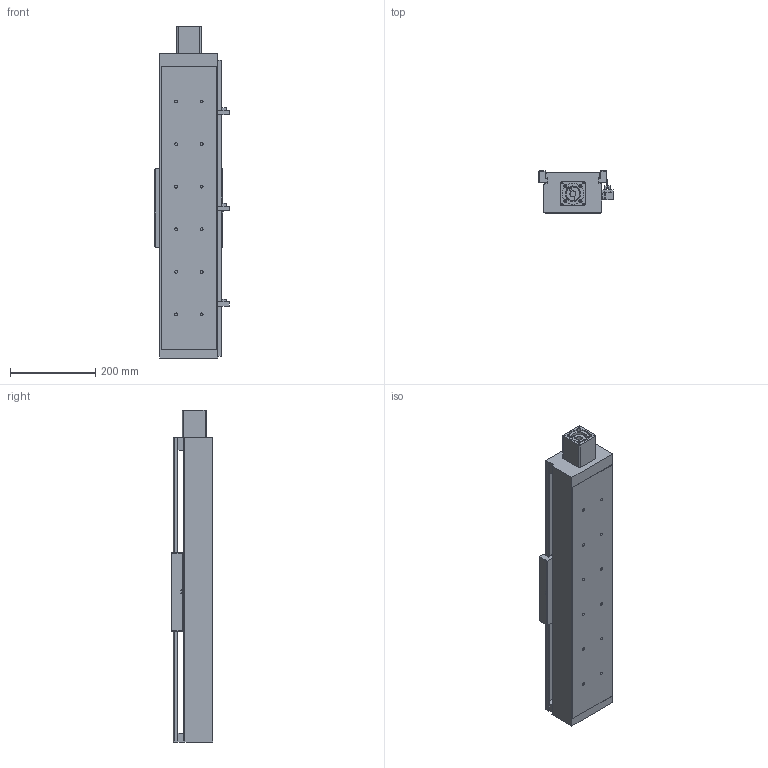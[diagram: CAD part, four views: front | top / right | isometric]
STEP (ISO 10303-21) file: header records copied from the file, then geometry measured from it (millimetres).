
FILE_DESCRIPTION((''),'2;1');
FILE_NAME('E:\libraries\UIA actuator library 2009\standard actuator\UIA136 ball screw 20\UIA136R15NDC stp file 27Apr16\UIA136R15NDC-450-R20_ _-M60-P13-C10-S.stp','2016-04-27T13:55:59',('h029'),(''),'Autodesk Inventor 11','Autodesk Inventor 11','');
FILE_SCHEMA(('AUTOMOTIVE_DESIGN { 1 0 10303 214 1 1 1 1 }'));
Length unit declared in the file: millimetre
Products named in the file (10): UIA136R15NDC-450; UIA136R15NDC-body; motor mount F60; SOH-32C; SOH-32C-3; SOH-32C-1; SOH-32C-2; Carriage; Sensor Switch; sensor rail
Assembly tree (9 placements, depth 3):
  UIA136R15NDC-450
    UIA136R15NDC-body
    motor mount F60
    SOH-32C
      SOH-32C-3
      SOH-32C-1
      SOH-32C-2
    Carriage
    Sensor Switch
    sensor rail
Bounding box: 174.5 x 98 x 780 mm (x, y, z)
Volume: 3236266.1 mm3; surface area: 846695.9 mm2
Topology: 8 solids, 8 shells, 479 faces, 1269 edges, 833 vertices
Faces by surface type: plane 311, bspline 126, cylinder 38, cone 4
Full cylindrical faces by diameter (mm): 2.459 x2, 3.242 x2, 4.5 x2, 5.5 x3, 7.5 x2, 10 x2, 12 x1, 14 x1, 32 x3, 37 x1, 41.9 x1, 42.1 x1, 43.5 x1
Entity records: 15715 total; most frequent: CARTESIAN_POINT 4562, ORIENTED_EDGE 2162, DIRECTION 2098, EDGE_CURVE 1081, VECTOR 790, LINE 790, VERTEX_POINT 768, EDGE_LOOP 705
